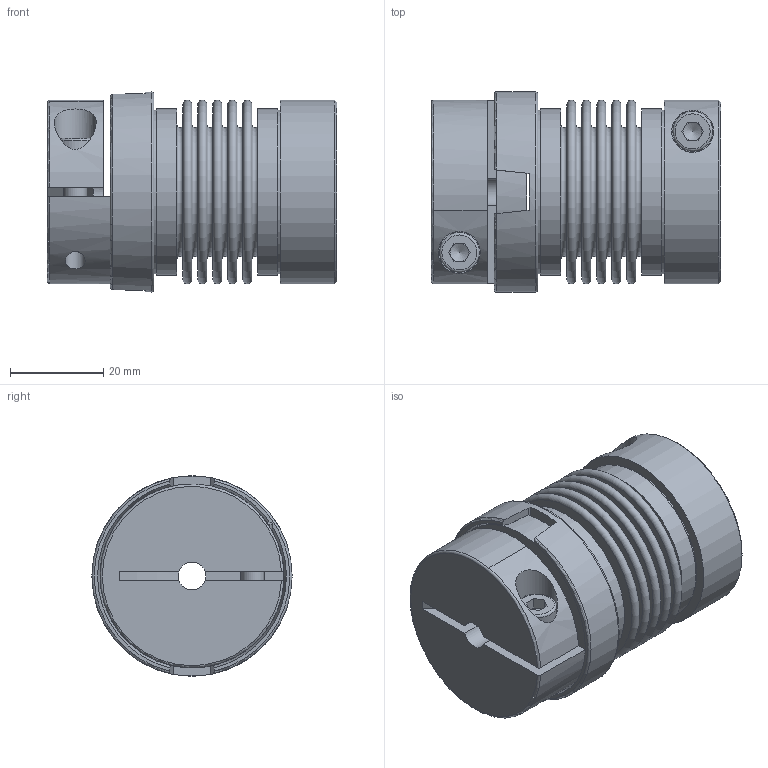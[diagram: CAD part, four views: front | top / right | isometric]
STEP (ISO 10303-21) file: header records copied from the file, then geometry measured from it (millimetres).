
FILE_DESCRIPTION( ( 'Unknown' ), '1' );
FILE_NAME( 'F:/JAKOB-STEP+IGES-Dateien/STEP-Dateien/KPP/KPP 10.stp', 'Unknown', ( 'Unknown' ), ( 'Unknown' ), 'PSStep 10.1', 'Unknown', ' ' );
FILE_SCHEMA( ( 'AUTOMOTIVE_DESIGN { 1 0 10303 214 1 1 1 1 }' ) );
Length unit declared in the file: millimetre
Products named in the file (1): KT102397
Bounding box: 62.11 x 43 x 43 mm (x, y, z)
Volume: 48674.6 mm3; surface area: 32749.6 mm2
Topology: 1 solids, 1 shells, 156 faces, 365 edges, 240 vertices
Faces by surface type: plane 95, torus 30, cylinder 26, cone 5
Full cylindrical faces by diameter (mm): 4.2 x2, 5 x2, 5.4 x1, 5.5 x1, 6 x1, 8.5 x2, 9 x2, 20.5 x1, 35.2 x1, 35.8 x2, 39.5 x1, 43 x1
Entity records: 5585 total; most frequent: CARTESIAN_POINT 981, DIRECTION 739, ORIENTED_EDGE 588, AXIS2_PLACEMENT_3D 305, EDGE_CURVE 294, EDGE_LOOP 237, VERTEX_POINT 217, FACE_OUTER_BOUND 196
